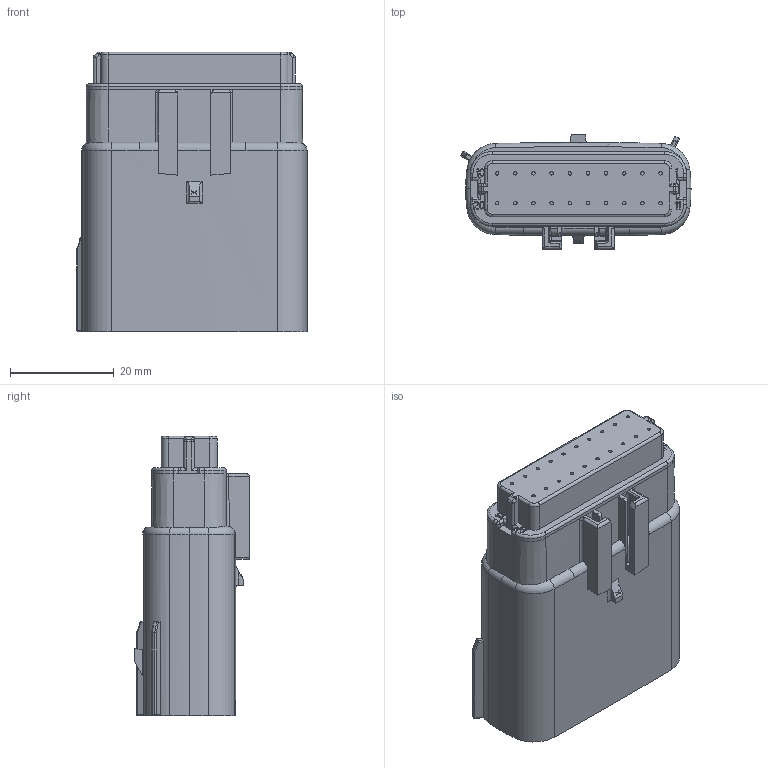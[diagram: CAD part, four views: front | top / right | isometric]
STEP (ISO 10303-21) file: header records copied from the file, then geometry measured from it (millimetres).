
FILE_DESCRIPTION((''),'2;1');
FILE_NAME('334822102','2017-04-18T',('ksrinivasara'),(''),'PRO/ENGINEER BY PARAMETRIC TECHNOLOGY CORPORATION, 2012310','PRO/ENGINEER BY PARAMETRIC TECHNOLOGY CORPORATION, 2012310','');
FILE_SCHEMA(('CONFIG_CONTROL_DESIGN'));
Length unit declared in the file: millimetre
Products named in the file (1): 334822102
Bounding box: 44.34 x 22.12 x 53.85 mm (x, y, z)
Volume: 25570.4 mm3; surface area: 10905.2 mm2
Topology: 1 solids, 1 shells, 638 faces, 1616 edges, 1019 vertices
Faces by surface type: plane 393, cylinder 152, torus 37, sphere 26, cone 14, bspline 14, extrusion 2
Entity records: 21057 total; most frequent: CARTESIAN_POINT 5824, ORIENTED_EDGE 3204, DIRECTION 3022, EDGE_CURVE 1602, VECTOR 1134, LINE 1132, VERTEX_POINT 1019, AXIS2_PLACEMENT_3D 944
